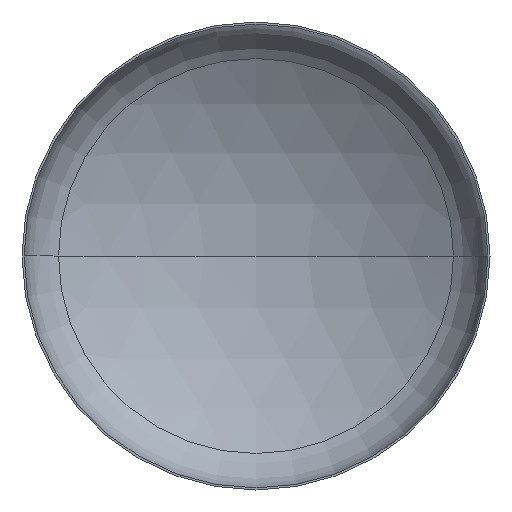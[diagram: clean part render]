
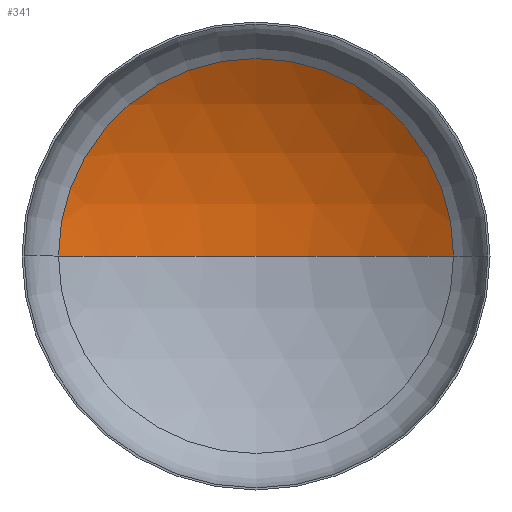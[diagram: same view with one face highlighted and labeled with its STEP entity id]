
A CAD part, front view. The second image highlights one B-rep face of the part: STEP entity #341.
In plain terms, the highlighted spherical face has radius 720 mm.
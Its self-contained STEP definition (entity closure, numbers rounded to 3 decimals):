
#2 = AXIS2_PLACEMENT_3D ( 'NONE', #93, #325, #185 ) ;
#19 = EDGE_LOOP ( 'NONE', ( #282, #68, #265 ) ) ;
#33 = CARTESIAN_POINT ( 'NONE',  ( 0., 247.289, 0. ) ) ;
#39 = AXIS2_PLACEMENT_3D ( 'NONE', #300, #298, #294 ) ;
#41 = AXIS2_PLACEMENT_3D ( 'NONE', #375, #378, #292 ) ;
#42 = AXIS2_PLACEMENT_3D ( 'NONE', #329, #349, #346 ) ;
#59 = EDGE_CURVE ( 'NONE', #270, #299, #246, .T. ) ;
#60 = EDGE_CURVE ( 'NONE', #203, #270, #172, .T. ) ;
#61 = EDGE_CURVE ( 'NONE', #203, #299, #387, .T. ) ;
#68 = ORIENTED_EDGE ( 'NONE', *, *, #60, .T. ) ;
#92 = CARTESIAN_POINT ( 'NONE',  ( 379.862, 138.93, 0. ) ) ;
#93 = CARTESIAN_POINT ( 'NONE',  ( 0., -472.711, 0. ) ) ;
#95 = CARTESIAN_POINT ( 'NONE',  ( -379.862, 138.93, 0. ) ) ;
#105 = SPHERICAL_SURFACE ( 'NONE', #2, 720. ) ;
#172 = CIRCLE ( 'NONE', #41, 720. ) ;
#185 = DIRECTION ( 'NONE',  ( -1., 0., 0. ) ) ;
#203 = VERTEX_POINT ( 'NONE', #33 ) ;
#246 = CIRCLE ( 'NONE', #42, 379.862 ) ;
#265 = ORIENTED_EDGE ( 'NONE', *, *, #59, .T. ) ;
#270 = VERTEX_POINT ( 'NONE', #92 ) ;
#282 = ORIENTED_EDGE ( 'NONE', *, *, #61, .F. ) ;
#292 = DIRECTION ( 'NONE',  ( -1., 0., 0. ) ) ;
#294 = DIRECTION ( 'NONE',  ( 1., 0., 0. ) ) ;
#298 = DIRECTION ( 'NONE',  ( 0., 0., 1. ) ) ;
#299 = VERTEX_POINT ( 'NONE', #95 ) ;
#300 = CARTESIAN_POINT ( 'NONE',  ( 0., -472.711, 0. ) ) ;
#325 = DIRECTION ( 'NONE',  ( 0., 0., -1. ) ) ;
#329 = CARTESIAN_POINT ( 'NONE',  ( 0., 138.93, 0. ) ) ;
#341 = ADVANCED_FACE ( 'NONE', ( #405 ), #105, .F. ) ;
#346 = DIRECTION ( 'NONE',  ( 1., 0., 0. ) ) ;
#349 = DIRECTION ( 'NONE',  ( 0., -1., 0. ) ) ;
#375 = CARTESIAN_POINT ( 'NONE',  ( 0., -472.711, 0. ) ) ;
#378 = DIRECTION ( 'NONE',  ( 0., 0., -1. ) ) ;
#387 = CIRCLE ( 'NONE', #39, 720. ) ;
#405 = FACE_OUTER_BOUND ( 'NONE', #19, .T. ) ;
